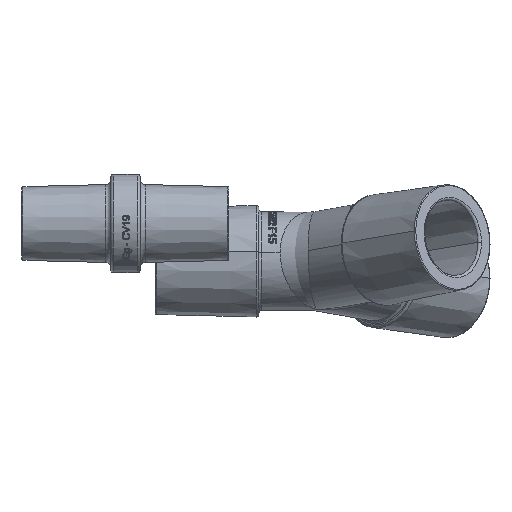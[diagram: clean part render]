
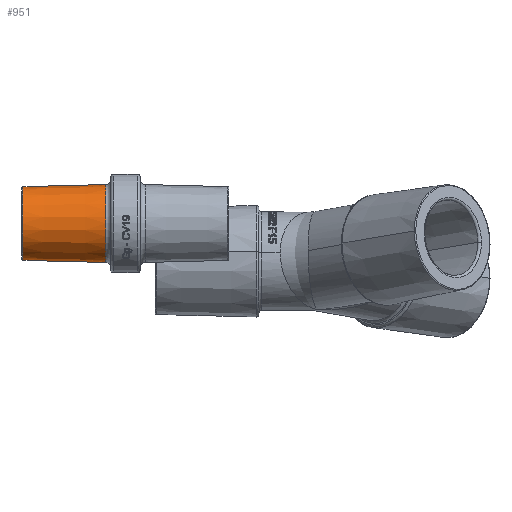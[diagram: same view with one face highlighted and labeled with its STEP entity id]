
A CAD part, top view. The second image highlights one B-rep face of the part: STEP entity #951.
In plain terms, the highlighted conical face has half-angle 1.432 degrees and reference radius 7.935 mm.
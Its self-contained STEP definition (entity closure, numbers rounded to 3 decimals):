
#417=CONICAL_SURFACE('',#8165,7.935,1.432);
#502=FACE_OUTER_BOUND('',#1561,.T.);
#951=ADVANCED_FACE('',(#502),#417,.T.);
#1561=EDGE_LOOP('',(#3356,#3357,#3358,#3359));
#2145=CIRCLE('',#8151,7.49);
#2155=CIRCLE('',#8164,7.911);
#2301=LINE('',#11635,#2678);
#2302=LINE('',#11637,#2679);
#2678=VECTOR('',#8861,1.);
#2679=VECTOR('',#8864,1.);
#3356=ORIENTED_EDGE('',*,*,#6452,.T.);
#3357=ORIENTED_EDGE('',*,*,#6464,.T.);
#3358=ORIENTED_EDGE('',*,*,#6465,.T.);
#3359=ORIENTED_EDGE('',*,*,#6466,.F.);
#5668=VERTEX_POINT('',#11604);
#5669=VERTEX_POINT('',#11605);
#5672=VERTEX_POINT('',#11613);
#5673=VERTEX_POINT('',#11614);
#6452=EDGE_CURVE('',#5672,#5673,#2145,.T.);
#6464=EDGE_CURVE('',#5673,#5669,#2301,.T.);
#6465=EDGE_CURVE('',#5669,#5668,#2155,.T.);
#6466=EDGE_CURVE('',#5672,#5668,#2302,.T.);
#8151=AXIS2_PLACEMENT_3D('',#11612,#8833,#8834);
#8164=AXIS2_PLACEMENT_3D('',#11636,#8862,#8863);
#8165=AXIS2_PLACEMENT_3D('',#11638,#8865,#8866);
#8833=DIRECTION('',(1.,0.,0.));
#8834=DIRECTION('',(0.,-1.,0.));
#8861=DIRECTION('',(1.,-0.025,0.));
#8862=DIRECTION('',(-1.,0.,0.));
#8863=DIRECTION('',(0.,1.,0.));
#8864=DIRECTION('',(1.,0.025,0.));
#8865=DIRECTION('',(1.,0.,0.));
#8866=DIRECTION('',(0.,-1.,0.));
#11604=CARTESIAN_POINT('',(-3.975,7.911,24.5));
#11605=CARTESIAN_POINT('',(-3.975,-7.911,24.5));
#11612=CARTESIAN_POINT('',(-20.805,0.,24.5));
#11613=CARTESIAN_POINT('',(-20.805,7.49,24.5));
#11614=CARTESIAN_POINT('',(-20.805,-7.49,24.5));
#11635=CARTESIAN_POINT('',(-3.,-7.935,24.5));
#11636=CARTESIAN_POINT('',(-3.975,0.,24.5));
#11637=CARTESIAN_POINT('',(-3.,7.935,24.5));
#11638=CARTESIAN_POINT('',(-3.,0.,24.5));
